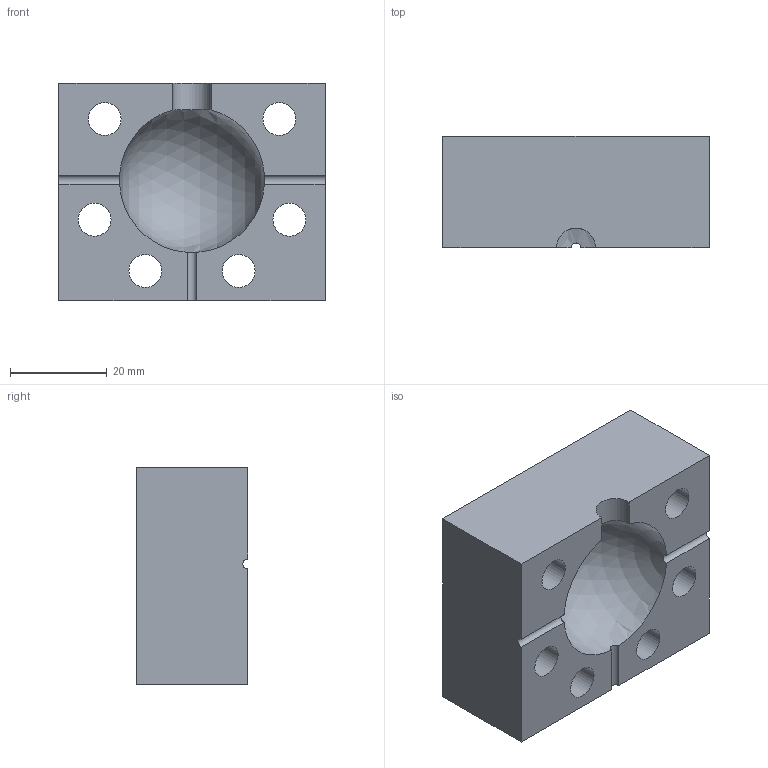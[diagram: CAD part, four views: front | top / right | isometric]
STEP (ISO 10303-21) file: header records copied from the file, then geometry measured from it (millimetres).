
FILE_DESCRIPTION(/* description */ ('STEP AP242','CAx-IF Rec.Pracs.---Representation and Presentation of Product Manufacturing Information (PMI)---4.0---2014-10-13','CAx-IF Rec.Pracs.---3D Tessellated Geometry---0.4---2014-09-14','2;1'),/* implementation_level */ '2;1');
FILE_NAME(/* name */ '633563d178ffe86d146b9138',/* time_stamp */ '2022-09-29T09:22:26+00:00',/* author */ (''),/* organization */ (''),/* preprocessor_version */ 'ST-DEVELOPER v18.102',/* originating_system */ ' ',/* authorisation */ ' ');
FILE_SCHEMA (('AP242_MANAGED_MODEL_BASED_3D_ENGINEERING_MIM_LF { 1 0 10303 442 1 1 4 }'));
Length unit declared in the file: metre
Products named in the file (1): Part 2
Bounding box: 55 x 23 x 45 mm (x, y, z)
Volume: 44657.2 mm3; surface area: 12777.4 mm2
Topology: 1 solids, 1 shells, 20 faces, 60 edges, 42 vertices
Faces by surface type: cylinder 10, plane 9, sphere 1
Full cylindrical faces by diameter (mm): 6.8 x6
Entity records: 658 total; most frequent: DIRECTION 114, CARTESIAN_POINT 105, ORIENTED_EDGE 96, EDGE_CURVE 48, AXIS2_PLACEMENT_3D 45, EDGE_LOOP 38, FACE_BOUND 38, VERTEX_POINT 36
